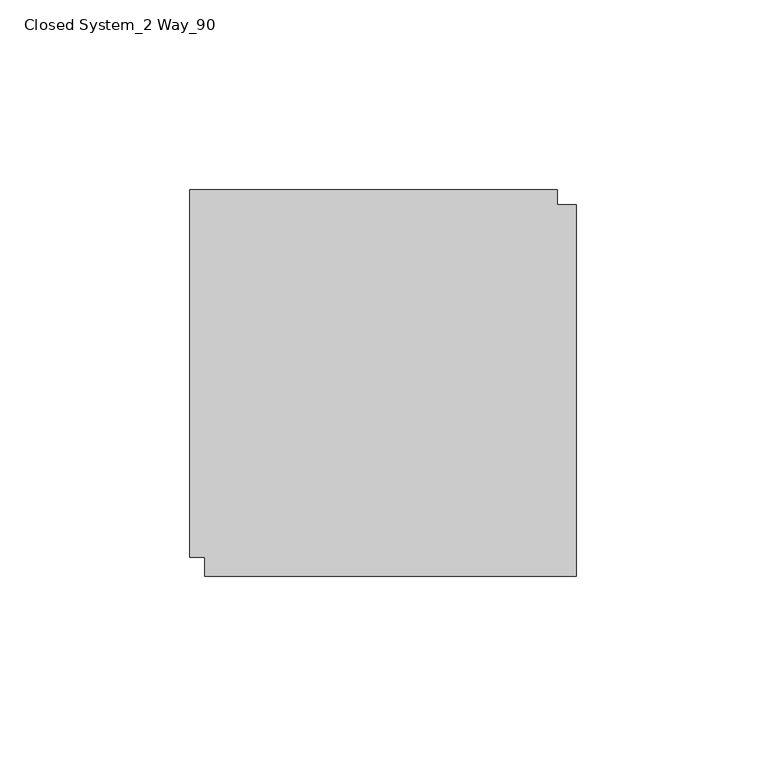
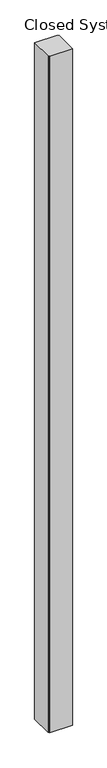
"""IFC4 building model written with IfcOpenShell, lengths in millimetres: furniture geometry, Haworth_Enclose_Accessories_WallModuleIntersection : Closed System_2 Way_90."""

from ifc_helpers import new_model, si_unit, origin, origin_with_axes, place, context, project, spatial, polyline, outline, extrude, source, transform, mapped, element, save


def closed_system_2_way_90_2e9c65e1(model_context):
    return source(origin(), model_context, "Body", "SweptSolid", [
        extrude(outline(polyline([(29.9771531, -22.2450295), (29.9771531, 74.4019705), (126.6241531, 74.4019705), (126.6241531, 70.4649705), (131.5771531, 70.4649705), (131.5771531, -27.1980295), (33.9141531, -27.1980295), (33.9141531, -22.2450295), (29.9771531, -22.2450295)])), origin_with_axes(), (0.0, 0.0, 1.0), 3048.0),
    ])


if __name__ == "__main__":
    model = new_model("IFC4")
    model_context = context("Model", 3, world=origin())
    ifc_project = project(units=[si_unit("LENGTHUNIT", "METRE", prefix="MILLI")], contexts=[model_context])
    site = spatial("IfcSite", under=ifc_project)
    building = spatial("IfcBuilding", under=site)
    placement = place(None, origin())
    closed_system_2_way_90_shape = closed_system_2_way_90_2e9c65e1(model_context)
    element("IfcFurniture", 1, ObjectType="Haworth_Enclose_Accessories_WallModuleIntersection : Closed System_2 Way_90", at=placement, inside=building, context=model_context, shape_type="MappedRepresentation", body=[
        mapped(closed_system_2_way_90_shape, transform((0.0, 0.0, 0.0), x_axis=(1.0, 0.0, 0.0), y_axis=(0.0, 1.0, 0.0), z_axis=(0.0, 0.0, 1.0))),
    ])
    save(model, "model.ifc")
